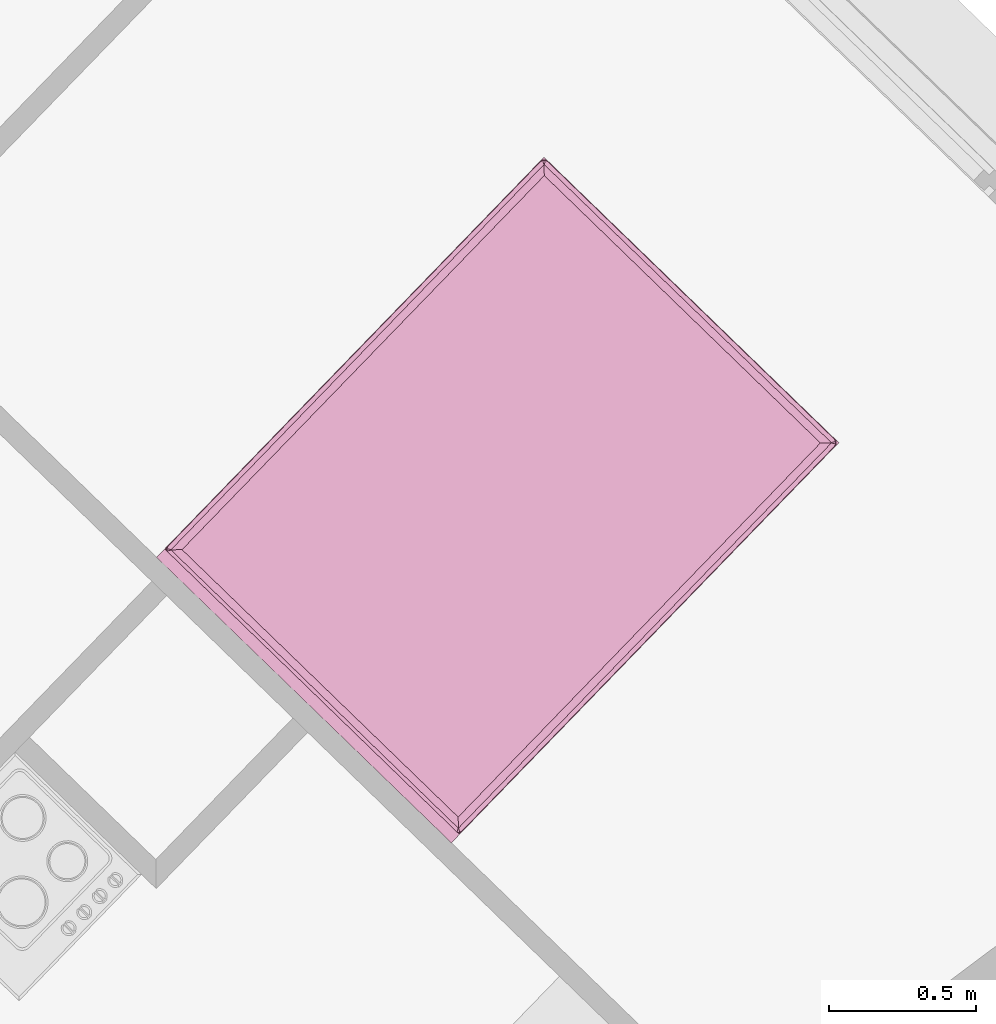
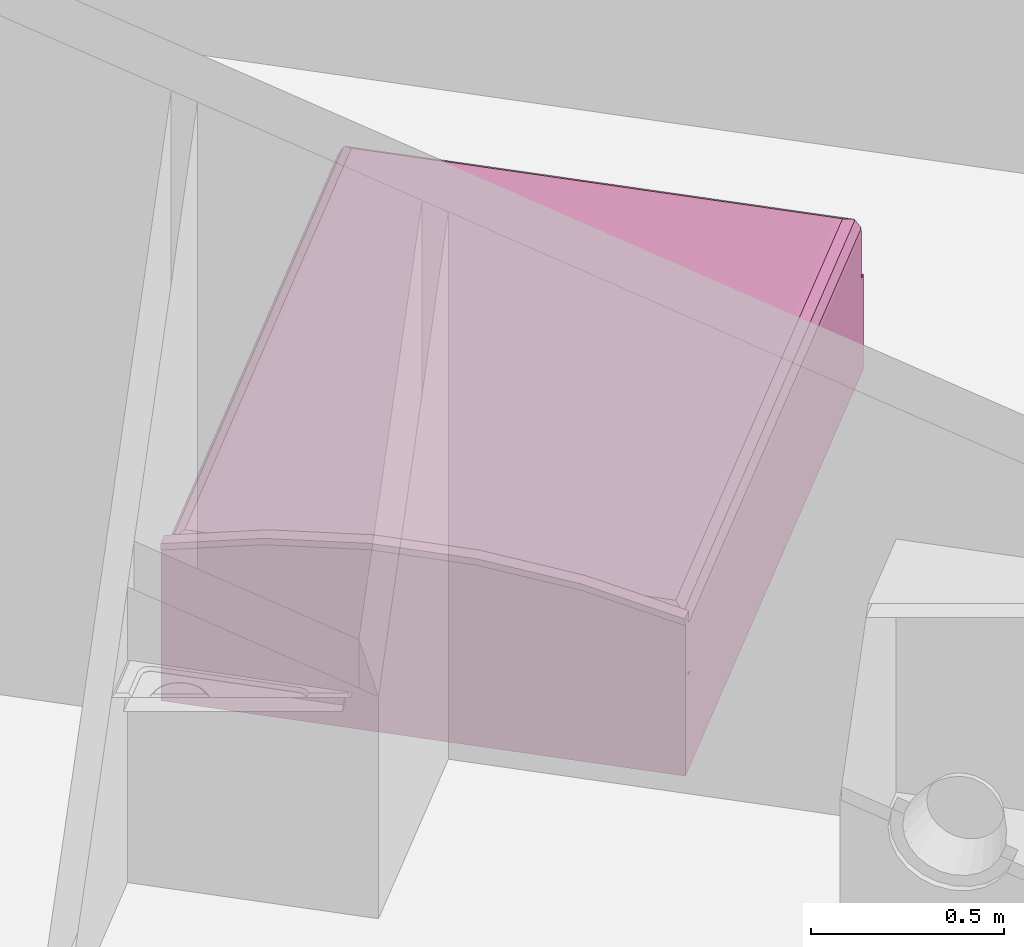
# One storey, part 151 of 195: 1 furnishing.
"""IFC2X3 building model written with IfcOpenShell, lengths in metres."""

from ifc_helpers import new_model, entity, si_unit, converted_unit, derived_unit, money_unit, direction, frame, origin_with_axes, place, context, subcontext, project, spatial, faceted_brep, source, transform, mapped, type_object, element, save


model = new_model("IFC2X3")

# Units and contexts
model_context = context("Model", 3, precision=1e-05, world=origin_with_axes(), true_north=direction((0.0, 1.0)))
body_context = subcontext(model_context, "Body", "Model", "MODEL_VIEW")
ifc_project = project(units=[si_unit("LENGTHUNIT", "METRE"), si_unit("AREAUNIT", "SQUARE_METRE"), si_unit("VOLUMEUNIT", "CUBIC_METRE"), converted_unit("PLANEANGLEUNIT", "DEGREE", entity("IfcPlaneAngleMeasure", 0.0174532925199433), si_unit("PLANEANGLEUNIT", "RADIAN"), dimensions=[0, 0, 0, 0, 0, 0, 0]), money_unit("CHF"), converted_unit("TIMEUNIT", "Year", entity("IfcTimeMeasure", 31557600.0), si_unit("TIMEUNIT", "SECOND"), dimensions=[0, 0, 1, 0, 0, 0, 0]), si_unit("MASSUNIT", "GRAM", prefix="KILO"), si_unit("THERMODYNAMICTEMPERATUREUNIT", "DEGREE_CELSIUS"), si_unit("LUMINOUSINTENSITYUNIT", "LUMEN"), si_unit("ENERGYUNIT", "JOULE", prefix="MEGA"), derived_unit("THERMALCONDUCTANCEUNIT", [(si_unit("POWERUNIT", "WATT"), 1), (si_unit("LENGTHUNIT", "METRE"), -1), (si_unit("THERMODYNAMICTEMPERATUREUNIT", "KELVIN"), -1)]), derived_unit("SPECIFICHEATCAPACITYUNIT", [(si_unit("ENERGYUNIT", "JOULE"), 1), (si_unit("MASSUNIT", "GRAM", prefix="KILO"), -1), (si_unit("THERMODYNAMICTEMPERATUREUNIT", "KELVIN"), -1)]), derived_unit("MASSDENSITYUNIT", [(si_unit("MASSUNIT", "GRAM", prefix="KILO"), 1), (si_unit("VOLUMEUNIT", "CUBIC_METRE"), -1)])], contexts=[model_context])

# Site, building, storey
site_placement = place(None, origin_with_axes())
site = spatial("IfcSite", under=ifc_project, at=site_placement, Name="Site", CompositionType="ELEMENT")
building_placement = place(site_placement, origin_with_axes())
building = spatial("IfcBuilding", under=site, at=building_placement, Name="Bâtiment", CompositionType="ELEMENT")
storey_placement = place(building_placement, origin_with_axes())
storey = spatial("IfcBuildingStorey", under=building, at=storey_placement, Name="rdc", CompositionType="ELEMENT", Elevation=0.0)

# Furnishing
furnishing_element_type = type_object("IfcFurnishingElementType", Name="Lit double 01")
shared_shape = source(origin_with_axes(), body_context, "Body", "Brep", [
    faceted_brep([(0.0, 1.895, 0.0), (1.4, 1.895, 0.0), (1.4, 1.865, 0.0), (0.0, 1.865, 0.0), (0.0, 1.895, 0.48), (0.276362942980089, 1.895, 0.5438448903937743), (0.558179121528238, 1.895, 0.5759741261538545), (0.8418208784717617, 1.895, 0.5759741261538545), (1.123637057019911, 1.895, 0.5438448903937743), (1.4, 1.895, 0.48), (1.4, 1.895, 0.4799), (1.4, 1.865, 0.4799), (1.4, 1.865, 0.48), (1.123637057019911, 1.865, 0.5438448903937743), (0.8418208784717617, 1.865, 0.5759741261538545), (0.558179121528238, 1.865, 0.5759741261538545), (0.276362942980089, 1.865, 0.5438448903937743), (0.0, 1.865, 0.48)], [[[0, 1, 2, 3]], [[0, 4, 5, 6, 7, 8, 9, 10, 1]], [[1, 10, 11, 2]], [[3, 2, 11, 12, 13, 14, 15, 16, 17]], [[4, 0, 3, 17]], [[5, 4, 17, 16]], [[6, 5, 16, 15]], [[7, 6, 15, 14]], [[8, 7, 14, 13]], [[9, 8, 13, 12]], [[10, 9, 12, 11]]]),
    faceted_brep([(1.4, 1.9, 0.48), (1.399999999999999, 1.9, 0.4999999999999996), (1.399999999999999, 1.86, 0.4999999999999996), (1.4, 1.86, 0.48), (1.123637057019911, 1.9, 0.5438448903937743), (0.8418208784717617, 1.9, 0.5759741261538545), (0.558179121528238, 1.9, 0.5759741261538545), (0.276362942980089, 1.9, 0.5438448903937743), (0.0, 1.9, 0.48), (0.0, 1.9, 0.4999), (0.0, 1.9, 0.5), (0.276362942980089, 1.9, 0.5638448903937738), (0.5581791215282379, 1.9, 0.5959741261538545), (0.8418208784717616, 1.9, 0.5959741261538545), (1.123637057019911, 1.9, 0.5638448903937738), (1.123637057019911, 1.86, 0.5638448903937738), (0.8418208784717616, 1.86, 0.5959741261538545), (0.5581791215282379, 1.86, 0.5959741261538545), (0.276362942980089, 1.86, 0.5638448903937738), (0.0, 1.86, 0.5), (0.0, 1.86, 0.4999), (0.0, 1.86, 0.48), (0.276362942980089, 1.86, 0.5438448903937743), (0.558179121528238, 1.86, 0.5759741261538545), (0.8418208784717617, 1.86, 0.5759741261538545), (1.123637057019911, 1.86, 0.5438448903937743)], [[[0, 1, 2, 3]], [[0, 4, 5, 6, 7, 8, 9, 10, 11, 12, 13, 14, 1]], [[1, 14, 15, 2]], [[3, 2, 15, 16, 17, 18, 19, 20, 21, 22, 23, 24, 25]], [[4, 0, 3, 25]], [[5, 4, 25, 24]], [[6, 5, 24, 23]], [[7, 6, 23, 22]], [[8, 7, 22, 21]], [[9, 8, 21, 20]], [[10, 9, 20, 19]], [[11, 10, 19, 18]], [[12, 11, 18, 17]], [[13, 12, 17, 16]], [[14, 13, 16, 15]]]),
    faceted_brep([(1.4, 0.0, 0.0), (0.0, 0.0, 0.0), (0.0, 1.865, 0.0), (1.4, 1.865, 0.0), (1.4, 0.0, 0.3), (0.0, 0.0, 0.3), (0.0, 1.865, 0.3), (1.4, 1.865, 0.3)], [[[0, 1, 2, 3]], [[1, 0, 4, 5]], [[2, 1, 5, 6]], [[3, 2, 6, 7]], [[0, 3, 7, 4]], [[5, 4, 7, 6]]]),
    faceted_brep([(0.0, 0.02, 0.43), (0.0, 1.845, 0.43), (0.002679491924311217, 1.855, 0.43), (0.009999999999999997, 1.862320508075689, 0.43), (0.02, 1.865, 0.43), (1.38, 1.865, 0.43), (1.39, 1.862320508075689, 0.43), (1.397320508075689, 1.855, 0.43), (1.4, 1.845, 0.43), (1.4, 0.02, 0.43), (1.397320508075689, 0.009999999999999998, 0.43), (1.39, 0.002679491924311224, 0.43), (1.38, 0.0, 0.43), (0.01999999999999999, 0.0, 0.43), (0.009999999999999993, 0.002679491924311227, 0.43), (0.002679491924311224, 0.01, 0.43), (-3.895163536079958e-10, 0.02000000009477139, 0.44), (-3.895163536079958e-10, 1.845000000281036, 0.44), (0.002679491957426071, 1.855000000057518, 0.44), (0.0100000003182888, 1.862320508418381, 0.44), (0.02000000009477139, 1.864999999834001, 0.44), (1.380000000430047, 1.864999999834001, 0.44), (1.39000000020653, 1.862320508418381, 0.44), (1.39732050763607, 1.855000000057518, 0.44), (1.399999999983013, 1.845000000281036, 0.44), (1.399999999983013, 0.02000000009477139, 0.44), (1.39732050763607, 0.0100000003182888, 0.44), (1.39000000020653, 0.002679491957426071, 0.44), (1.380000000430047, -3.895163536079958e-10, 0.44), (0.02000000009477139, -3.895163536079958e-10, 0.44), (0.0100000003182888, 0.002679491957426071, 0.44), (0.002679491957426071, 0.0100000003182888, 0.44), (0.002044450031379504, 0.02026915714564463, 0.4555291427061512), (0.002044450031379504, 1.844730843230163, 0.4555291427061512), (0.004512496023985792, 1.853941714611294, 0.4555291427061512), (0.01105828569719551, 1.860487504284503, 0.4555291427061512), (0.02026915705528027, 1.862955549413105, 0.4555291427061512), (1.379730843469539, 1.862955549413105, 0.4555291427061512), (1.388941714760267, 1.860487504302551, 0.4555291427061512), (1.395487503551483, 1.853941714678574, 0.4555291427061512), (1.397955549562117, 1.844730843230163, 0.4555291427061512), (1.397955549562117, 0.02026915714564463, 0.4555291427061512), (1.395487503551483, 0.01105828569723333, 0.4555291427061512), (1.388941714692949, 0.004512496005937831, 0.4555291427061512), (1.379730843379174, 0.002044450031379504, 0.4555291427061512), (0.02026915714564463, 0.002044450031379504, 0.4555291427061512), (0.01105828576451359, 0.004512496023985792, 0.4555291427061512), (0.004512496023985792, 0.01105828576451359, 0.4555291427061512), (0.01757359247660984, 0.02231360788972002, 0.4824264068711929), (0.01757359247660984, 1.842686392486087, 0.4824264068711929), (0.01843554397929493, 1.845903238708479, 0.4824264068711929), (0.01909676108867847, 1.846564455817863, 0.4824264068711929), (0.02231360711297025, 1.847426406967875, 0.4824264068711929), (1.377686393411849, 1.847426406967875, 0.4824264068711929), (1.380903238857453, 1.846564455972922, 0.4824264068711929), (1.381564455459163, 1.845903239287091, 0.4824264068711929), (1.382426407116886, 1.842686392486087, 0.4824264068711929), (1.382426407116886, 0.02231360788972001, 0.4824264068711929), (1.381564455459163, 0.01909676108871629, 0.4824264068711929), (1.380903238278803, 0.01843554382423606, 0.4824264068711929), (1.377686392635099, 0.01757359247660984, 0.4824264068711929), (0.02231360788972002, 0.01757359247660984, 0.4824264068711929), (0.01909676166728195, 0.01843554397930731, 0.4824264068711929), (0.01843554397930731, 0.01909676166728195, 0.4824264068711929), (0.02303225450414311, 0.02303225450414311, 0.4855779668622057), (0.04447085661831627, 0.04447085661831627, 0.4979555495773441), (0.04447085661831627, 1.820529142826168, 0.4979555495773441), (0.02303225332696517, 1.841967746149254, 0.48557796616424), (0.02000000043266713, 1.844999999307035, 0.4834338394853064), (1.35552914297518, 1.820529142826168, 0.4979555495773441), (1.376967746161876, 1.841967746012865, 0.4855779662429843), (1.380000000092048, 1.845000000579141, 0.4834338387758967), (1.35552914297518, 0.04447085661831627, 0.4979555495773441), (1.376967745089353, 0.02303225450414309, 0.4855779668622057), (1.379999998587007, 0.02000000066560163, 0.4834338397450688), (0.02000000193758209, 0.02000000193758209, 0.4834338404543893), (0.05999999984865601, 0.05999999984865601, 0.5000000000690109), (0.05999999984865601, 1.804999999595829, 0.5000000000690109), (1.33999999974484, 1.804999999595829, 0.5000000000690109), (1.33999999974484, 0.05999999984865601, 0.5000000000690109)], [[[0, 1, 2, 3, 4, 5, 6, 7, 8, 9, 10, 11, 12, 13, 14, 15]], [[1, 0, 16, 17]], [[2, 1, 17, 18]], [[3, 2, 18, 19]], [[4, 3, 19, 20]], [[5, 4, 20, 21]], [[6, 5, 21, 22]], [[7, 6, 22, 23]], [[8, 7, 23, 24]], [[9, 8, 24, 25]], [[10, 9, 25, 26]], [[11, 10, 26, 27]], [[12, 11, 27, 28]], [[13, 12, 28, 29]], [[14, 13, 29, 30]], [[15, 14, 30, 31]], [[0, 15, 31, 16]], [[17, 16, 32, 33]], [[18, 17, 33, 34]], [[19, 18, 34, 35]], [[20, 19, 35, 36]], [[21, 20, 36, 37]], [[22, 21, 37, 38]], [[23, 22, 38, 39]], [[24, 23, 39, 40]], [[25, 24, 40, 41]], [[26, 25, 41, 42]], [[27, 26, 42, 43]], [[28, 27, 43, 44]], [[29, 28, 44, 45]], [[30, 29, 45, 46]], [[31, 30, 46, 47]], [[16, 31, 47, 32]], [[33, 32, 48, 49]], [[34, 33, 49, 50]], [[35, 34, 50, 51]], [[36, 35, 51, 52]], [[37, 36, 52, 53]], [[38, 37, 53, 54]], [[39, 38, 54, 55]], [[40, 39, 55, 56]], [[41, 40, 56, 57]], [[42, 41, 57, 58]], [[43, 42, 58, 59]], [[44, 43, 59, 60]], [[45, 44, 60, 61]], [[46, 45, 61, 62]], [[47, 46, 62, 63]], [[32, 47, 63, 48]], [[49, 48, 64, 65, 66, 67]], [[50, 49, 67, 68]], [[51, 50, 68]], [[52, 51, 68, 67]], [[53, 52, 67, 66, 69, 70]], [[54, 53, 70, 71]], [[55, 54, 71]], [[56, 55, 71, 70]], [[57, 56, 70, 69, 72, 73]], [[58, 57, 73, 74]], [[59, 58, 74]], [[60, 59, 74, 73]], [[61, 60, 73, 72, 65, 64]], [[62, 61, 64, 75]], [[63, 62, 75]], [[48, 63, 75, 64]], [[66, 65, 76, 77]], [[69, 66, 77, 78]], [[72, 69, 78, 79]], [[65, 72, 79, 76]], [[78, 77, 76, 79]]]),
    faceted_brep([(0.0, 0.02000000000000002, 0.3099999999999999), (-3.895163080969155e-10, 0.02000000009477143, 0.2999999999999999), (0.002679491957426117, 0.01000000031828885, 0.2999999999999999), (0.002679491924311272, 0.01000000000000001, 0.3099999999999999), (0.0, 1.845, 0.3099999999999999), (-3.895163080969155e-10, 1.845000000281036, 0.2999999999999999), (0.002679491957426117, 1.855000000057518, 0.2999999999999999), (0.01000000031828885, 1.862320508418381, 0.2999999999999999), (0.02000000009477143, 1.864999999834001, 0.2999999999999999), (1.380000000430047, 1.864999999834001, 0.2999999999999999), (1.39000000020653, 1.862320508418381, 0.2999999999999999), (1.39732050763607, 1.855000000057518, 0.2999999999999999), (1.399999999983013, 1.845000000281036, 0.2999999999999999), (1.399999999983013, 0.02000000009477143, 0.2999999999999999), (1.39732050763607, 0.01000000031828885, 0.2999999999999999), (1.39000000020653, 0.002679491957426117, 0.2999999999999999), (1.380000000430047, -3.895163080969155e-10, 0.2999999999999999), (0.02000000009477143, -3.895163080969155e-10, 0.2999999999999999), (0.01000000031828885, 0.002679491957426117, 0.2999999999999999), (0.01000000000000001, 0.002679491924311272, 0.3099999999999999), (0.02000000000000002, 0.0, 0.3099999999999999), (1.38, 0.0, 0.3099999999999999), (1.39, 0.002679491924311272, 0.3099999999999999), (1.397320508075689, 0.01000000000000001, 0.3099999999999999), (1.4, 0.02000000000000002, 0.3099999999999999), (1.4, 1.845, 0.3099999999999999), (1.397320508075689, 1.855, 0.3099999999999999), (1.39, 1.862320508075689, 0.3099999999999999), (1.38, 1.865, 0.3099999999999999), (0.02000000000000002, 1.865, 0.3099999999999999), (0.01000000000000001, 1.862320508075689, 0.3099999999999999), (0.002679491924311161, 1.855, 0.3099999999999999)], [[[0, 1, 2, 3]], [[1, 0, 4, 5]], [[2, 1, 5, 6, 7, 8, 9, 10, 11, 12, 13, 14, 15, 16, 17, 18]], [[3, 2, 18, 19]], [[3, 19, 20, 21, 22, 23, 24, 25, 26, 27, 28, 29, 30, 31, 4, 0]], [[5, 4, 31, 6]], [[6, 31, 30, 7]], [[7, 30, 29, 8]], [[8, 29, 28, 9]], [[27, 10, 9, 28]], [[10, 27, 26, 11]], [[11, 26, 25, 12]], [[24, 13, 12, 25]], [[23, 14, 13, 24]], [[22, 15, 14, 23]], [[21, 16, 15, 22]], [[20, 17, 16, 21]], [[18, 17, 20, 19]]]),
    faceted_brep([(0.0, 0.02, 0.3099999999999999), (0.002679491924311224, 0.01, 0.3099999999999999), (0.002679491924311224, 0.01, 0.4299999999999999), (0.0, 0.02, 0.4299999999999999), (0.0, 1.845, 0.3099999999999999), (0.002679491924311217, 1.855, 0.3099999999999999), (0.009999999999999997, 1.862320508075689, 0.3099999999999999), (0.02, 1.865, 0.3099999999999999), (1.38, 1.865, 0.3099999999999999), (1.39, 1.862320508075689, 0.3099999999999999), (1.397320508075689, 1.855, 0.3099999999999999), (1.4, 1.845, 0.3099999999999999), (1.4, 0.02, 0.3099999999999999), (1.397320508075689, 0.009999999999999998, 0.3099999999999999), (1.39, 0.002679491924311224, 0.3099999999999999), (1.38, 0.0, 0.3099999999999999), (0.01999999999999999, 0.0, 0.3099999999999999), (0.009999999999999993, 0.002679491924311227, 0.3099999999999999), (0.009999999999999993, 0.002679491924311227, 0.4299999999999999), (0.01999999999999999, 0.0, 0.4299999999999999), (1.38, 0.0, 0.4299999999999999), (1.39, 0.002679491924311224, 0.4299999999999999), (1.397320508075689, 0.009999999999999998, 0.4299999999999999), (1.4, 0.02, 0.4299999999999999), (1.4, 1.845, 0.4299999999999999), (1.397320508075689, 1.855, 0.4299999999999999), (1.39, 1.862320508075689, 0.4299999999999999), (1.38, 1.865, 0.4299999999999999), (0.02, 1.865, 0.4299999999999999), (0.009999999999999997, 1.862320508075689, 0.4299999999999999), (0.002679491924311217, 1.855, 0.4299999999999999), (0.0, 1.845, 0.4299999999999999)], [[[0, 1, 2, 3]], [[0, 4, 5, 6, 7, 8, 9, 10, 11, 12, 13, 14, 15, 16, 17, 1]], [[1, 17, 18, 2]], [[3, 2, 18, 19, 20, 21, 22, 23, 24, 25, 26, 27, 28, 29, 30, 31]], [[4, 0, 3, 31]], [[5, 4, 31, 30]], [[6, 5, 30, 29]], [[7, 6, 29, 28]], [[8, 7, 28, 27]], [[9, 8, 27, 26]], [[10, 9, 26, 25]], [[11, 10, 25, 24]], [[12, 11, 24, 23]], [[13, 12, 23, 22]], [[14, 13, 22, 21]], [[15, 14, 21, 20]], [[16, 15, 20, 19]], [[17, 16, 19, 18]]]),
])
furnishing_placement = place(storey_placement, frame((9536.670982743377, -1067.95832297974, 57.7), z_axis=(0.0, 0.0, 1.0), x_axis=(-0.7183833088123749, 0.6956474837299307, 0.0)))
element("IfcFurnishingElement", 1, at=furnishing_placement, inside=storey, type_object=furnishing_element_type, Name="Obj.-002", context=body_context, shape_type="MappedRepresentation", body=[
    mapped(shared_shape, transform((0.0, 0.0, 0.0))),
])

save(model, "model.ifc")
